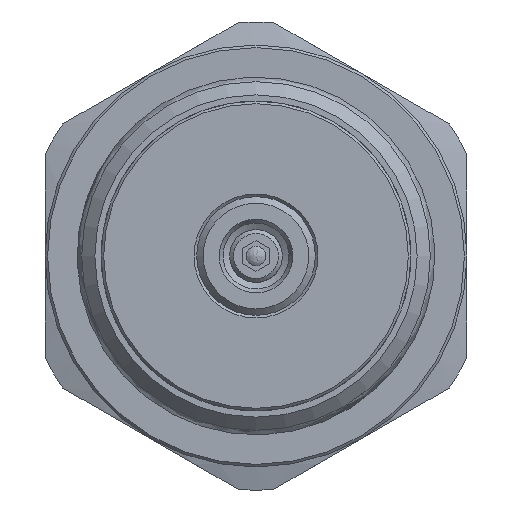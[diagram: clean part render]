
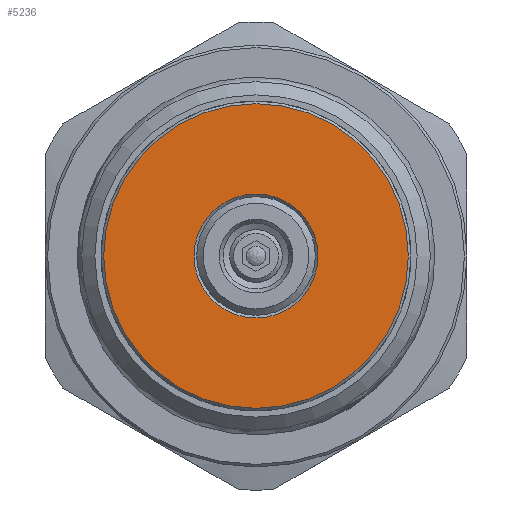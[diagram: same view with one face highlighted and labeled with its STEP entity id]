
A CAD part, left-side view. The second image highlights one B-rep face of the part: STEP entity #5236.
In plain terms, the highlighted planar face has unit normal (-1, 0, 0).
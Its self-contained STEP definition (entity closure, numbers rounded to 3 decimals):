
#827=PLANE('',#5842);
#936=FACE_BOUND('',#1725,.T.);
#1317=FACE_OUTER_BOUND('',#1724,.T.);
#1724=EDGE_LOOP('',(#4440));
#1725=EDGE_LOOP('',(#4441));
#2082=CIRCLE('',#5839,4.7);
#2084=CIRCLE('',#5843,11.55);
#2550=VERTEX_POINT('',#10227);
#2551=VERTEX_POINT('',#10232);
#3203=EDGE_CURVE('',#2550,#2550,#2082,.T.);
#3205=EDGE_CURVE('',#2551,#2551,#2084,.T.);
#4440=ORIENTED_EDGE('',*,*,#3205,.F.);
#4441=ORIENTED_EDGE('',*,*,#3203,.F.);
#5236=ADVANCED_FACE('',(#1317,#936),#827,.T.);
#5839=AXIS2_PLACEMENT_3D('',#10228,#7237,#7238);
#5842=AXIS2_PLACEMENT_3D('',#10231,#7243,#7244);
#5843=AXIS2_PLACEMENT_3D('',#10233,#7245,#7246);
#7237=DIRECTION('center_axis',(-1.,0.,0.));
#7238=DIRECTION('ref_axis',(0.,0.,-1.));
#7243=DIRECTION('center_axis',(-1.,0.,0.));
#7244=DIRECTION('ref_axis',(0.,0.,1.));
#7245=DIRECTION('center_axis',(1.,0.,0.));
#7246=DIRECTION('ref_axis',(0.,-1.,0.));
#10227=CARTESIAN_POINT('',(-41.5,0.,4.7));
#10228=CARTESIAN_POINT('Origin',(-41.5,0.,0.));
#10231=CARTESIAN_POINT('Origin',(-41.5,5.875,0.));
#10232=CARTESIAN_POINT('',(-41.5,11.55,0.));
#10233=CARTESIAN_POINT('Origin',(-41.5,0.,0.));
